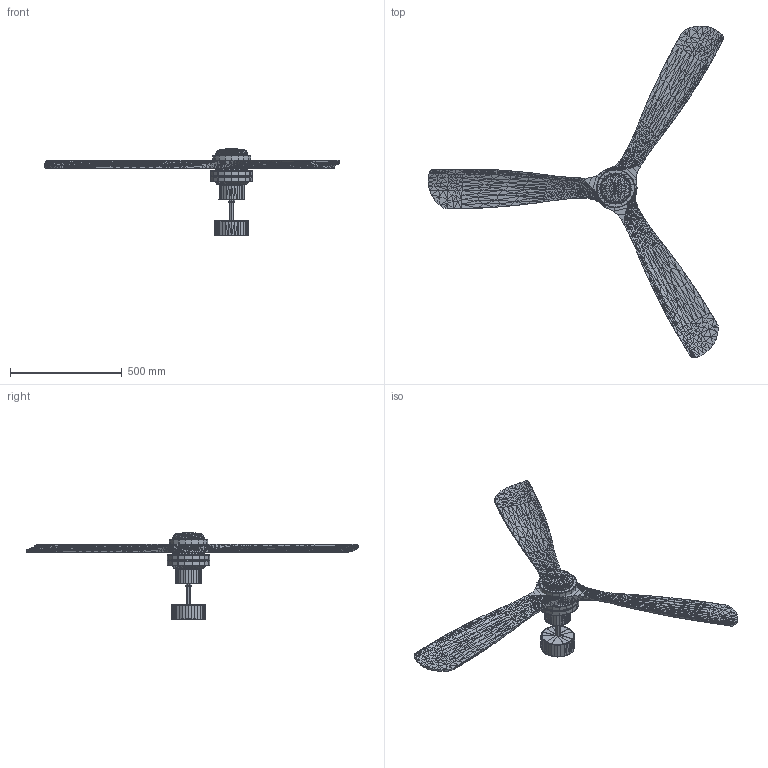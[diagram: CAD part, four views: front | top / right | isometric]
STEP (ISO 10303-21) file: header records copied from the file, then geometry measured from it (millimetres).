
FILE_DESCRIPTION(/* description */ (''),/* implementation_level */ '2;1');
FILE_NAME(/* name */ '33464DCWP.step',/* time_stamp */ '2024-04-26T10:14:36+02:00',/* author */ ('RenataManzini'),/* organization */ (''),/* preprocessor_version */ 'ST-DEVELOPER v20',/* originating_system */ 'AutoCAD Mechanical',/* authorisation */ '');
FILE_SCHEMA (('AUTOMOTIVE_DESIGN { 1 0 10303 214 3 1 1 }'));
Products named in the file (3): Product; 33463_33464_33504_33505_LANTAU - LANTAU-457519-_3D_; 33463_33505_LANTAU_lamp - LANTAU-455952-_3D_
Assembly tree (2 placements, depth 2):
  Product
    33463_33464_33504_33505_LANTAU - LANTAU-457519-_3D_
    33463_33505_LANTAU_lamp - LANTAU-455952-_3D_
Bounding box: 1321.17 x 1484.54 x 387.19 mm (x, y, z)
Surface area: 1363799.7 mm2 (no closed solid volume)
Topology: 0 solids, 32524 shells, 32526 faces, 99327 edges, 99327 vertices
Faces by surface type: plane 32526
Entity records: 1152487 total; most frequent: CARTESIAN_POINT 231186, DIRECTION 164390, LINE 99326, VECTOR 99326, ORIENTED_EDGE 99326, EDGE_CURVE 99324, VERTEX_POINT 99322, AXIS2_PLACEMENT_3D 32532
